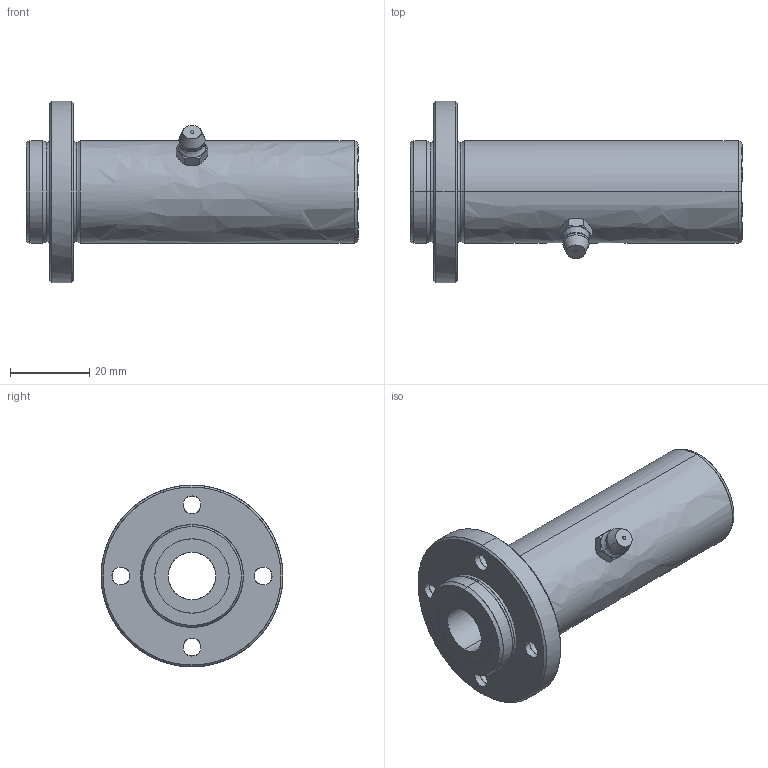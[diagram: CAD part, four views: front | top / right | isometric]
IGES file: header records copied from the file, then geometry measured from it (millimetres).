
Global section: file name: No Iges File Name specified; native system: AutoDesk Inventor R10; preprocessor: AutoDesk Inventor Iges Exporter R10; author: No Author specified; organization: No Organization specified; date: 20101211.162216; units: millimetre
Bounding box: 84 x 46 x 46 mm (x, y, z)
Surface area: 13999.9 mm2 (no closed solid volume)
Topology: 0 solids, 0 shells, 92 faces, 615 edges, 613 vertices
Faces by surface type: bspline 92
